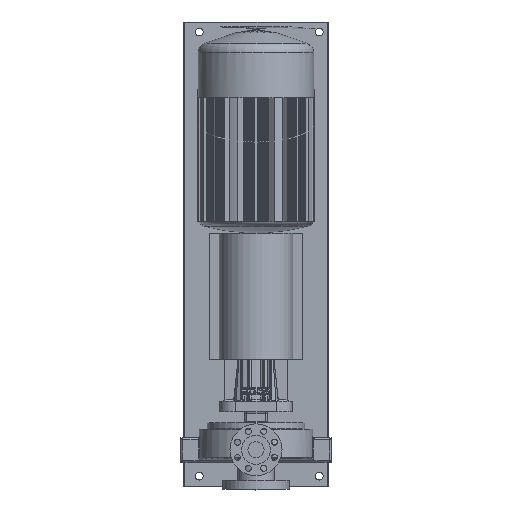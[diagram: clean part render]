
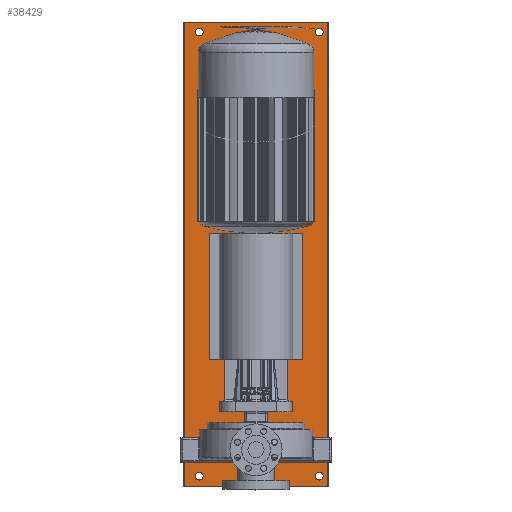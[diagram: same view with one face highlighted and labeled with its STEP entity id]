
A CAD part, top view. The second image highlights one B-rep face of the part: STEP entity #38429.
In plain terms, the highlighted planar face has unit normal (0, 0, 1).
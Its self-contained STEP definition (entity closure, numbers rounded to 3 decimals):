
#898=LINE('',#51980,#3477);
#902=LINE('',#51988,#3481);
#1434=LINE('',#61075,#4013);
#1435=LINE('',#61078,#4014);
#1436=LINE('',#61080,#4015);
#1437=LINE('',#61082,#4016);
#1438=LINE('',#61087,#4017);
#1439=LINE('',#61089,#4018);
#1440=LINE('',#61091,#4019);
#1441=LINE('',#61092,#4020);
#1442=LINE('',#61094,#4021);
#1443=LINE('',#61096,#4022);
#1444=LINE('',#61097,#4023);
#1445=LINE('',#61100,#4024);
#1446=LINE('',#61102,#4025);
#1447=LINE('',#61104,#4026);
#1448=LINE('',#61105,#4027);
#1449=LINE('',#61108,#4028);
#1450=LINE('',#61110,#4029);
#1451=LINE('',#61112,#4030);
#1452=LINE('',#61113,#4031);
#1453=LINE('',#61116,#4032);
#1454=LINE('',#61118,#4033);
#1455=LINE('',#61120,#4034);
#3477=VECTOR('',#42546,1000.);
#3481=VECTOR('',#42550,1000.);
#4013=VECTOR('',#44416,1000.);
#4014=VECTOR('',#44417,1000.);
#4015=VECTOR('',#44418,1000.);
#4016=VECTOR('',#44419,1000.);
#4017=VECTOR('',#44424,1000.);
#4018=VECTOR('',#44425,1000.);
#4019=VECTOR('',#44426,1000.);
#4020=VECTOR('',#44427,1000.);
#4021=VECTOR('',#44428,1000.);
#4022=VECTOR('',#44429,1000.);
#4023=VECTOR('',#44430,1000.);
#4024=VECTOR('',#44431,1000.);
#4025=VECTOR('',#44432,1000.);
#4026=VECTOR('',#44433,1000.);
#4027=VECTOR('',#44434,1000.);
#4028=VECTOR('',#44435,1000.);
#4029=VECTOR('',#44436,1000.);
#4030=VECTOR('',#44437,1000.);
#4031=VECTOR('',#44438,1000.);
#4032=VECTOR('',#44439,1000.);
#4033=VECTOR('',#44440,1000.);
#4034=VECTOR('',#44441,1000.);
#8326=ORIENTED_EDGE('',*,*,#15362,.T.);
#8327=ORIENTED_EDGE('',*,*,#15363,.T.);
#8328=ORIENTED_EDGE('',*,*,#15364,.T.);
#8329=ORIENTED_EDGE('',*,*,#15365,.T.);
#8330=ORIENTED_EDGE('',*,*,#15366,.F.);
#8331=ORIENTED_EDGE('',*,*,#15367,.T.);
#8332=ORIENTED_EDGE('',*,*,#15368,.T.);
#8333=ORIENTED_EDGE('',*,*,#15369,.T.);
#8334=ORIENTED_EDGE('',*,*,#14262,.T.);
#8335=ORIENTED_EDGE('',*,*,#15370,.T.);
#8336=ORIENTED_EDGE('',*,*,#15371,.T.);
#8337=ORIENTED_EDGE('',*,*,#15372,.T.);
#8338=ORIENTED_EDGE('',*,*,#14258,.F.);
#8339=ORIENTED_EDGE('',*,*,#15373,.T.);
#8340=ORIENTED_EDGE('',*,*,#15374,.F.);
#8341=ORIENTED_EDGE('',*,*,#15375,.T.);
#8342=ORIENTED_EDGE('',*,*,#15376,.F.);
#8343=ORIENTED_EDGE('',*,*,#15377,.F.);
#8344=ORIENTED_EDGE('',*,*,#15378,.T.);
#8345=ORIENTED_EDGE('',*,*,#15379,.F.);
#8346=ORIENTED_EDGE('',*,*,#15380,.T.);
#8347=ORIENTED_EDGE('',*,*,#15381,.T.);
#8348=ORIENTED_EDGE('',*,*,#15382,.T.);
#8349=ORIENTED_EDGE('',*,*,#15383,.T.);
#8350=ORIENTED_EDGE('',*,*,#15384,.T.);
#8351=ORIENTED_EDGE('',*,*,#15385,.T.);
#8352=ORIENTED_EDGE('',*,*,#15386,.T.);
#8353=ORIENTED_EDGE('',*,*,#15387,.T.);
#14258=EDGE_CURVE('',#18295,#18296,#898,.T.);
#14262=EDGE_CURVE('',#18300,#18299,#902,.T.);
#15362=EDGE_CURVE('',#18948,#18948,#20973,.F.);
#15363=EDGE_CURVE('',#18949,#18949,#20974,.F.);
#15364=EDGE_CURVE('',#18950,#18951,#1434,.T.);
#15365=EDGE_CURVE('',#18951,#18952,#1435,.T.);
#15366=EDGE_CURVE('',#18953,#18952,#1436,.T.);
#15367=EDGE_CURVE('',#18953,#18950,#1437,.F.);
#15368=EDGE_CURVE('',#18954,#18954,#20975,.F.);
#15369=EDGE_CURVE('',#18955,#18955,#20976,.F.);
#15370=EDGE_CURVE('',#18299,#18956,#1438,.T.);
#15371=EDGE_CURVE('',#18956,#18957,#1439,.T.);
#15372=EDGE_CURVE('',#18957,#18300,#1440,.T.);
#15373=EDGE_CURVE('',#18295,#18958,#1441,.T.);
#15374=EDGE_CURVE('',#18959,#18958,#1442,.T.);
#15375=EDGE_CURVE('',#18959,#18296,#1443,.T.);
#15376=EDGE_CURVE('',#18960,#18961,#1444,.T.);
#15377=EDGE_CURVE('',#18962,#18960,#1445,.T.);
#15378=EDGE_CURVE('',#18962,#18963,#1446,.T.);
#15379=EDGE_CURVE('',#18961,#18963,#1447,.T.);
#15380=EDGE_CURVE('',#18964,#18965,#1448,.T.);
#15381=EDGE_CURVE('',#18965,#18966,#1449,.T.);
#15382=EDGE_CURVE('',#18966,#18967,#1450,.T.);
#15383=EDGE_CURVE('',#18967,#18964,#1451,.T.);
#15384=EDGE_CURVE('',#18968,#18969,#1452,.T.);
#15385=EDGE_CURVE('',#18969,#18970,#1453,.T.);
#15386=EDGE_CURVE('',#18970,#18971,#1454,.T.);
#15387=EDGE_CURVE('',#18971,#18968,#1455,.T.);
#18295=VERTEX_POINT('',#51979);
#18296=VERTEX_POINT('',#51981);
#18299=VERTEX_POINT('',#51987);
#18300=VERTEX_POINT('',#51989);
#18948=VERTEX_POINT('',#61072);
#18949=VERTEX_POINT('',#61074);
#18950=VERTEX_POINT('',#61076);
#18951=VERTEX_POINT('',#61077);
#18952=VERTEX_POINT('',#61079);
#18953=VERTEX_POINT('',#61081);
#18954=VERTEX_POINT('',#61084);
#18955=VERTEX_POINT('',#61086);
#18956=VERTEX_POINT('',#61088);
#18957=VERTEX_POINT('',#61090);
#18958=VERTEX_POINT('',#61093);
#18959=VERTEX_POINT('',#61095);
#18960=VERTEX_POINT('',#61098);
#18961=VERTEX_POINT('',#61099);
#18962=VERTEX_POINT('',#61101);
#18963=VERTEX_POINT('',#61103);
#18964=VERTEX_POINT('',#61106);
#18965=VERTEX_POINT('',#61107);
#18966=VERTEX_POINT('',#61109);
#18967=VERTEX_POINT('',#61111);
#18968=VERTEX_POINT('',#61114);
#18969=VERTEX_POINT('',#61115);
#18970=VERTEX_POINT('',#61117);
#18971=VERTEX_POINT('',#61119);
#20973=CIRCLE('',#40339,12.5);
#20974=CIRCLE('',#40340,12.5);
#20975=CIRCLE('',#40341,12.5);
#20976=CIRCLE('',#40342,12.5);
#22381=EDGE_LOOP('',(#8326));
#22382=EDGE_LOOP('',(#8327));
#22383=EDGE_LOOP('',(#8328,#8329,#8330,#8331));
#22384=EDGE_LOOP('',(#8332));
#22385=EDGE_LOOP('',(#8333));
#22386=EDGE_LOOP('',(#8334,#8335,#8336,#8337));
#22387=EDGE_LOOP('',(#8338,#8339,#8340,#8341));
#22388=EDGE_LOOP('',(#8342,#8343,#8344,#8345));
#22389=EDGE_LOOP('',(#8346,#8347,#8348,#8349));
#22390=EDGE_LOOP('',(#8350,#8351,#8352,#8353));
#24141=FACE_BOUND('',#22381,.T.);
#24142=FACE_BOUND('',#22382,.T.);
#24143=FACE_BOUND('',#22383,.T.);
#24144=FACE_BOUND('',#22384,.T.);
#24145=FACE_BOUND('',#22385,.T.);
#24146=FACE_BOUND('',#22386,.T.);
#24147=FACE_BOUND('',#22387,.T.);
#24148=FACE_BOUND('',#22388,.T.);
#24149=FACE_BOUND('',#22389,.T.);
#24150=FACE_BOUND('',#22390,.T.);
#25481=PLANE('',#40338);
#38429=ADVANCED_FACE('',(#24141,#24142,#24143,#24144,#24145,#24146,#24147,
#24148,#24149,#24150),#25481,.T.);
#40338=AXIS2_PLACEMENT_3D('',#61070,#44410,#44411);
#40339=AXIS2_PLACEMENT_3D('',#61071,#44412,#44413);
#40340=AXIS2_PLACEMENT_3D('',#61073,#44414,#44415);
#40341=AXIS2_PLACEMENT_3D('',#61083,#44420,#44421);
#40342=AXIS2_PLACEMENT_3D('',#61085,#44422,#44423);
#42546=DIRECTION('',(1.,0.,0.));
#42550=DIRECTION('',(-1.,0.,0.));
#44410=DIRECTION('',(0.,0.,1.));
#44411=DIRECTION('',(1.,0.,0.));
#44412=DIRECTION('',(0.,0.,1.));
#44413=DIRECTION('',(1.,0.,0.));
#44414=DIRECTION('',(0.,0.,1.));
#44415=DIRECTION('',(1.,0.,0.));
#44416=DIRECTION('',(-1.,0.,0.));
#44417=DIRECTION('',(0.,-1.,0.));
#44418=DIRECTION('',(-1.,0.,0.));
#44419=DIRECTION('',(0.,-1.,0.));
#44420=DIRECTION('',(0.,0.,1.));
#44421=DIRECTION('',(1.,0.,0.));
#44422=DIRECTION('',(0.,0.,1.));
#44423=DIRECTION('',(1.,0.,0.));
#44424=DIRECTION('',(0.,1.,0.));
#44425=DIRECTION('',(1.,0.,0.));
#44426=DIRECTION('',(0.,-1.,0.));
#44427=DIRECTION('',(0.,1.,0.));
#44428=DIRECTION('',(-1.,0.,0.));
#44429=DIRECTION('',(0.,-1.,0.));
#44430=DIRECTION('',(1.,0.,0.));
#44431=DIRECTION('',(0.,-1.,0.));
#44432=DIRECTION('',(1.,0.,0.));
#44433=DIRECTION('',(0.,1.,0.));
#44434=DIRECTION('',(-1.,0.,0.));
#44435=DIRECTION('',(0.,1.,0.));
#44436=DIRECTION('',(1.,0.,0.));
#44437=DIRECTION('',(0.,-1.,0.));
#44438=DIRECTION('',(0.,-1.,0.));
#44439=DIRECTION('',(-1.,0.,0.));
#44440=DIRECTION('',(0.,1.,0.));
#44441=DIRECTION('',(1.,0.,0.));
#51979=CARTESIAN_POINT('',(-148.947,-38.,-254.));
#51980=CARTESIAN_POINT('',(-148.947,-38.,-254.));
#51981=CARTESIAN_POINT('',(-98.947,-38.,-254.));
#51987=CARTESIAN_POINT('',(98.703,-38.,-254.));
#51988=CARTESIAN_POINT('',(-228.6,-38.,-254.));
#51989=CARTESIAN_POINT('',(148.703,-38.,-254.));
#61070=CARTESIAN_POINT('',(-228.6,1358.9,-254.));
#61071=CARTESIAN_POINT('',(-180.46,1327.1,-254.));
#61072=CARTESIAN_POINT('',(-167.96,1327.1,-254.));
#61073=CARTESIAN_POINT('',(200.5,-82.5,-254.));
#61074=CARTESIAN_POINT('',(213.,-82.5,-254.));
#61075=CARTESIAN_POINT('',(-228.6,1358.9,-254.));
#61076=CARTESIAN_POINT('',(225.6,1358.9,-254.));
#61077=CARTESIAN_POINT('',(-225.6,1358.9,-254.));
#61078=CARTESIAN_POINT('',(-225.6,1358.9,-254.));
#61079=CARTESIAN_POINT('',(-225.6,-114.3,-254.));
#61080=CARTESIAN_POINT('',(-228.6,-114.3,-254.));
#61081=CARTESIAN_POINT('',(225.6,-114.3,-254.));
#61082=CARTESIAN_POINT('',(225.6,1358.9,-254.));
#61083=CARTESIAN_POINT('',(-180.46,-82.5,-254.));
#61084=CARTESIAN_POINT('',(-167.96,-82.5,-254.));
#61085=CARTESIAN_POINT('',(200.5,1327.1,-254.));
#61086=CARTESIAN_POINT('',(213.,1327.1,-254.));
#61087=CARTESIAN_POINT('',(98.703,1358.9,-254.));
#61088=CARTESIAN_POINT('',(98.703,38.2,-254.));
#61089=CARTESIAN_POINT('',(98.703,38.2,-254.));
#61090=CARTESIAN_POINT('',(148.703,38.2,-254.));
#61091=CARTESIAN_POINT('',(148.703,1358.9,-254.));
#61092=CARTESIAN_POINT('',(-148.947,1358.9,-254.));
#61093=CARTESIAN_POINT('',(-148.947,38.2,-254.));
#61094=CARTESIAN_POINT('',(-228.6,38.2,-254.));
#61095=CARTESIAN_POINT('',(-98.947,38.2,-254.));
#61096=CARTESIAN_POINT('',(-98.947,1358.9,-254.));
#61097=CARTESIAN_POINT('',(-228.6,287.95,-254.));
#61098=CARTESIAN_POINT('',(-146.5,287.95,-254.));
#61099=CARTESIAN_POINT('',(146.5,287.95,-254.));
#61100=CARTESIAN_POINT('',(-146.5,1358.9,-254.));
#61101=CARTESIAN_POINT('',(-146.5,687.95,-254.));
#61102=CARTESIAN_POINT('',(-228.6,687.95,-254.));
#61103=CARTESIAN_POINT('',(146.5,687.95,-254.));
#61104=CARTESIAN_POINT('',(146.5,1358.9,-254.));
#61105=CARTESIAN_POINT('',(-133.35,787.4,-254.));
#61106=CARTESIAN_POINT('',(-133.35,787.4,-254.));
#61107=CARTESIAN_POINT('',(-184.15,787.4,-254.));
#61108=CARTESIAN_POINT('',(-184.15,787.4,-254.));
#61109=CARTESIAN_POINT('',(-184.15,1143.,-254.));
#61110=CARTESIAN_POINT('',(-184.15,1143.,-254.));
#61111=CARTESIAN_POINT('',(-133.35,1143.,-254.));
#61112=CARTESIAN_POINT('',(-133.35,1143.,-254.));
#61113=CARTESIAN_POINT('',(184.15,1143.,-254.));
#61114=CARTESIAN_POINT('',(184.15,1143.,-254.));
#61115=CARTESIAN_POINT('',(184.15,787.4,-254.));
#61116=CARTESIAN_POINT('',(184.15,787.4,-254.));
#61117=CARTESIAN_POINT('',(133.35,787.4,-254.));
#61118=CARTESIAN_POINT('',(133.35,787.4,-254.));
#61119=CARTESIAN_POINT('',(133.35,1143.,-254.));
#61120=CARTESIAN_POINT('',(133.35,1143.,-254.));
